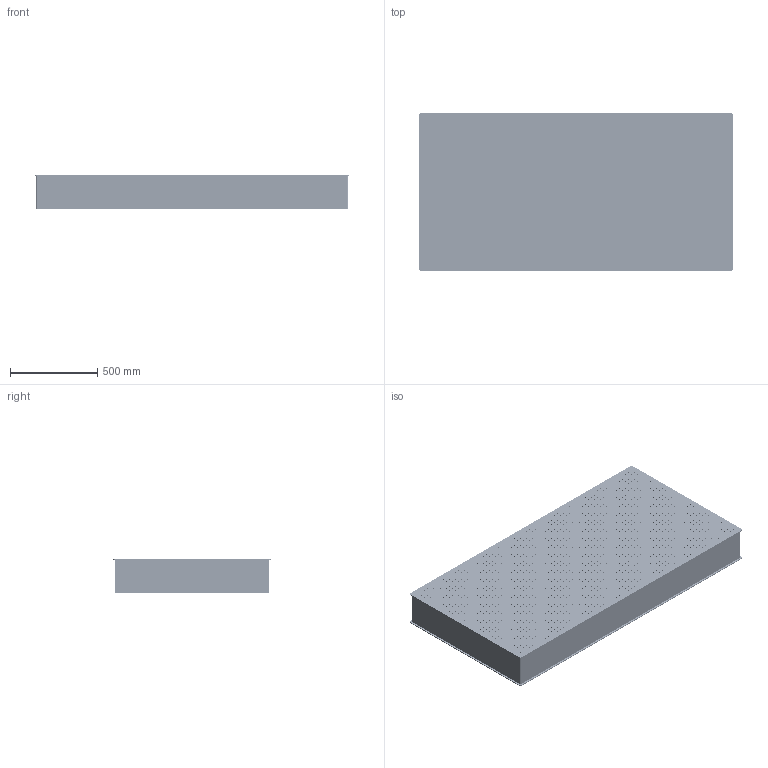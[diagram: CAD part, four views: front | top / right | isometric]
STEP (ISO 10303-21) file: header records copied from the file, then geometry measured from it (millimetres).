
FILE_DESCRIPTION (( 'STEP AP203' ), '1' );
FILE_NAME ('NTBH918-200 怢醱(AP203).STEP', '2021-05-10T02:57:41', ( '8615811166815' ), ( '' ), 'SwSTEP 2.0', 'SolidWorks 2017', '' );
FILE_SCHEMA (( 'CONFIG_CONTROL_DESIGN' ));
Products named in the file (1): NTBH918-200 怢醱(AP203)
Bounding box: 1800 x 900 x 200 mm (x, y, z)
Surface area: 7774716.5 mm2 (no closed solid volume)
Topology: 0 solids, 30 shells, 4806 faces, 14698 edges, 9924 vertices
Faces by surface type: cylinder 4740, plane 66
Entity records: 179924 total; most frequent: DIRECTION 33856, CARTESIAN_POINT 29429, ORIENTED_EDGE 28960, EDGE_CURVE 14698, AXIS2_PLACEMENT_3D 14351, VERTEX_POINT 9924, EDGE_LOOP 9566, CIRCLE 9544
